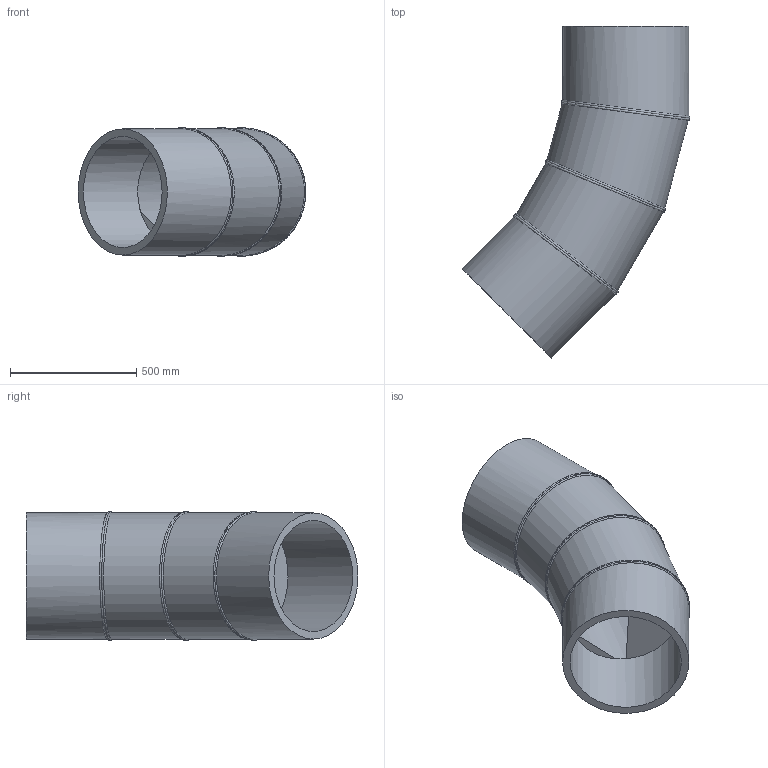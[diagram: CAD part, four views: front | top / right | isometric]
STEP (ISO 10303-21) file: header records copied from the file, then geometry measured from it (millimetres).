
FILE_DESCRIPTION(/* description */ ('Unknown'),/* implementation_level */ '2;1');
FILE_NAME(/* name */ 'Curva 45° a settore DE500 SDR17',/* time_stamp */ '2022-07-26T09:46:35+02:00',/* author */ ('Unknown'),/* organization */ ('Unknown'),/* preprocessor_version */ 'ST-DEVELOPER v18.102',/* originating_system */ 'Solid Edge',/* authorisation */ 'Unknown');
FILE_SCHEMA (('AUTOMOTIVE_DESIGN {1 0 10303 214 3 1 1}'));
Length unit declared in the file: millimetre
Products named in the file (3): Curva 45° a settore DE500 SDR17; Tubo x Gomito 45° DE500 SDR17 - 1; Tubo x Gomito 45° DE500 SDR17 - 2
Assembly tree (4 placements, depth 2):
  Curva 45° a settore DE500 SDR17
    Tubo x Gomito 45° DE500 SDR17 - 1  x2
    Tubo x Gomito 45° DE500 SDR17 - 2  x2
Bounding box: 902.03 x 1314.51 x 507.97 mm (x, y, z)
Volume: 56737374.2 mm3; surface area: 4202240.2 mm2
Topology: 4 solids, 4 shells, 34 faces, 74 edges, 48 vertices
Faces by surface type: cylinder 20, plane 8, bspline 6
Full cylindrical faces by diameter (mm): 440.6 x4, 500 x4
Entity records: 2475 total; most frequent: CARTESIAN_POINT 2073, DIRECTION 72, ORIENTED_EDGE 52, AXIS2_PLACEMENT_3D 36, EDGE_LOOP 28, FACE_BOUND 28, EDGE_CURVE 26, VERTEX_POINT 20
